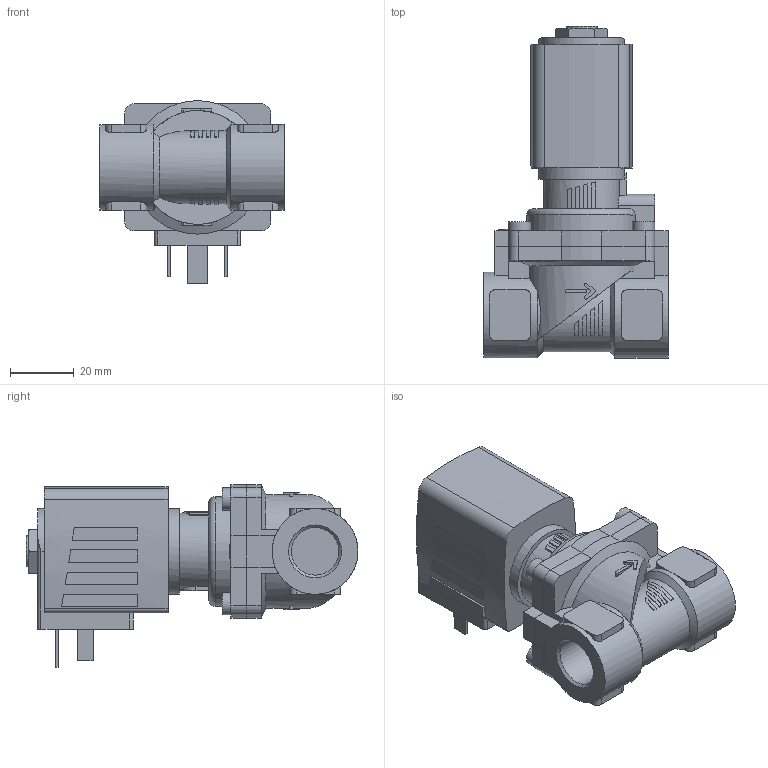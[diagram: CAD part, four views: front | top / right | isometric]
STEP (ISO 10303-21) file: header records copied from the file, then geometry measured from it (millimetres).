
FILE_DESCRIPTION(/* description */ ('STEP AP214'),/* implementation_level */ '2;1');
FILE_NAME(/* name */ '6281-246781-2_2-Way_Solenoid_Valve__Servo-assisted__General_Purpose',/* time_stamp */ '2024-05-24T22:30:46+02:00',/* author */ ('License CC BY-ND 4.0'),/* organization */ ('CADENAS'),/* preprocessor_version */ 'ST-DEVELOPER v19.3',/* originating_system */ 'PARTsolutions',/* authorisation */ ' ');
FILE_SCHEMA (('AUTOMOTIVE_DESIGN {1 0 10303 214 3 1 1}'));
Length unit declared in the file: millimetre
Products named in the file (4): 6281-246781-2/2-Way Solenoid Valve, Servo-assisted, General Purpose; 5281ev130MS2/2-Wege-Magnetventil mit Servomembran-Deckel 42 ; 6213-13G3/8MS-Gehaeuse-; AC10ex-5NA38-Plan-Coil
Assembly tree (3 placements, depth 2):
  6281-246781-2/2-Way Solenoid Valve, Servo-assisted, General Purpose
    5281ev130MS2/2-Wege-Magnetventil mit Servomembran-Deckel 42 
    6213-13G3/8MS-Gehaeuse-
    AC10ex-5NA38-Plan-Coil
Bounding box: 58 x 104.5 x 57.5 mm (x, y, z)
Volume: 120962.9 mm3; surface area: 27921.4 mm2
Topology: 3 solids, 3 shells, 342 faces, 876 edges, 574 vertices
Faces by surface type: plane 237, cylinder 89, cone 15, torus 1
Full cylindrical faces by diameter (mm): 2.013 x1, 7 x4, 9.74 x1, 14.95 x2, 27 x2
Entity records: 11672 total; most frequent: CARTESIAN_POINT 2039, DIRECTION 1736, ORIENTED_EDGE 1710, EDGE_CURVE 855, AXIS2_PLACEMENT_3D 606, VERTEX_POINT 567, LINE 524, VECTOR 524
